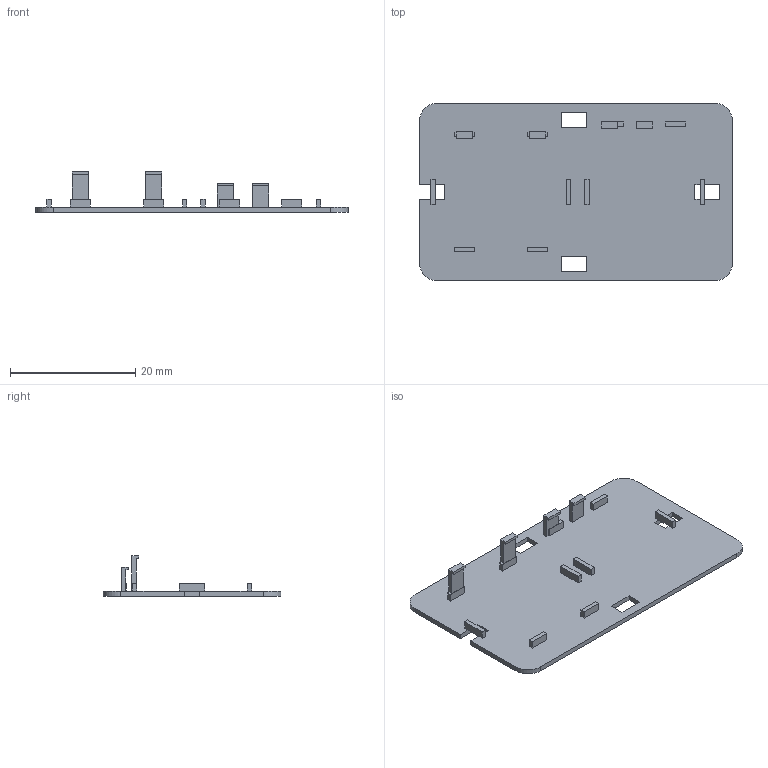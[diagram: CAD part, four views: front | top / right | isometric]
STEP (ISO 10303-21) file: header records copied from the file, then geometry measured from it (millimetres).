
FILE_DESCRIPTION(('Open CASCADE Model'),'2;1');
FILE_NAME('Open CASCADE Shape Model','2026-08-28T00:57:55',('Author'),( 'Open CASCADE'),'Open CASCADE STEP processor 7.8','Open CASCADE 7.8' ,'Unknown');
FILE_SCHEMA(('AUTOMOTIVE_DESIGN { 1 0 10303 214 1 1 1 1 }'));
Length unit declared in the file: millimetre
Products named in the file (1): Open CASCADE STEP translator 7.8 3
Bounding box: 50 x 28.4 x 6.45 mm (x, y, z)
Volume: 1161.3 mm3; surface area: 3132.6 mm2
Topology: 1 solids, 1 shells, 108 faces, 295 edges, 194 vertices
Faces by surface type: plane 104, cylinder 4
Entity records: 7122 total; most frequent: CARTESIAN_POINT 1310, DIRECTION 1009, LINE 771, VECTOR 771, ORIENTED_EDGE 590, PCURVE 590, DEFINITIONAL_REPRESENTATION 590, EDGE_CURVE 295
